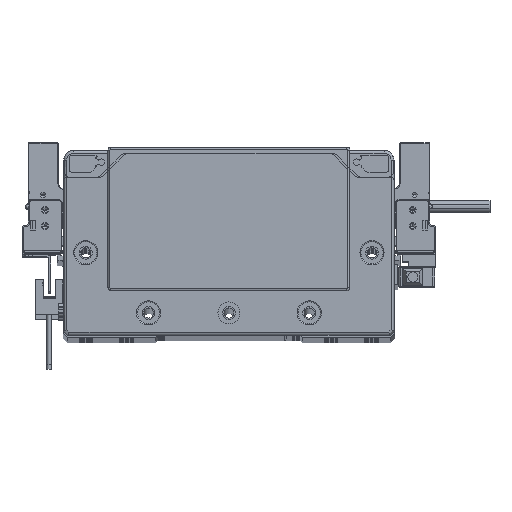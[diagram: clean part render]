
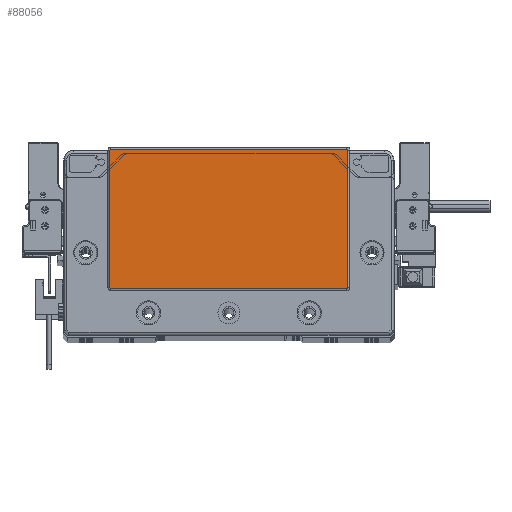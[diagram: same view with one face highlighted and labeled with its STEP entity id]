
A CAD part, top view. The second image highlights one B-rep face of the part: STEP entity #88056.
In plain terms, the highlighted planar face has unit normal (0, 0, 1) as drawn and (0, 0, -1) by its records, which use the part's own axes.
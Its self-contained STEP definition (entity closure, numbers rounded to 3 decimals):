
#1468 = VERTEX_POINT ( 'NONE', #18185 ) ;
#3751 = EDGE_CURVE ( 'NONE', #83486, #41745, #35683, .T. ) ;
#5866 = CARTESIAN_POINT ( 'NONE',  ( -58.75, 45.8, -2. ) ) ;
#6159 = CARTESIAN_POINT ( 'NONE',  ( -58.75, -23.3, -2. ) ) ;
#6895 = EDGE_LOOP ( 'NONE', ( #53944, #69088, #88418, #94316, #98993, #44537, #44601, #93188 ) ) ;
#13051 = CARTESIAN_POINT ( 'NONE',  ( 58.75, 45.3, -2. ) ) ;
#13952 = CARTESIAN_POINT ( 'NONE',  ( -59.25, 45.3, -2. ) ) ;
#15745 = CARTESIAN_POINT ( 'NONE',  ( 58.75, -23.3, -2. ) ) ;
#17788 = CIRCLE ( 'NONE', #50908, 0.5 ) ;
#18185 = CARTESIAN_POINT ( 'NONE',  ( -59.25, -23.3, -2. ) ) ;
#19595 = PLANE ( 'NONE',  #72758 ) ;
#20500 = CARTESIAN_POINT ( 'NONE',  ( 58.75, -23.8, -2. ) ) ;
#23698 = CIRCLE ( 'NONE', #50993, 0.5 ) ;
#29232 = CARTESIAN_POINT ( 'NONE',  ( -58.75, -23.8, -2. ) ) ;
#35683 = LINE ( 'NONE', #55762, #42789 ) ;
#41745 = VERTEX_POINT ( 'NONE', #29232 ) ;
#42273 = AXIS2_PLACEMENT_3D ( 'NONE', #45451, #74095, #65507 ) ;
#42789 = VECTOR ( 'NONE', #64891, 1000. ) ;
#44537 = ORIENTED_EDGE ( 'NONE', *, *, #66855, .T. ) ;
#44601 = ORIENTED_EDGE ( 'NONE', *, *, #58772, .T. ) ;
#45441 = CARTESIAN_POINT ( 'NONE',  ( 58.75, 45.8, -2. ) ) ;
#45451 = CARTESIAN_POINT ( 'NONE',  ( -58.75, 45.3, -2. ) ) ;
#50004 = DIRECTION ( 'NONE',  ( 0., 0., -1. ) ) ;
#50228 = DIRECTION ( 'NONE',  ( 0., 0., -1. ) ) ;
#50908 = AXIS2_PLACEMENT_3D ( 'NONE', #13051, #50228, #87462 ) ;
#50993 = AXIS2_PLACEMENT_3D ( 'NONE', #6159, #53670, #110449 ) ;
#51726 = CIRCLE ( 'NONE', #114147, 0.5 ) ;
#53670 = DIRECTION ( 'NONE',  ( 0., 0., -1. ) ) ;
#53944 = ORIENTED_EDGE ( 'NONE', *, *, #65791, .T. ) ;
#55762 = CARTESIAN_POINT ( 'NONE',  ( -58.75, -23.8, -2. ) ) ;
#56743 = CARTESIAN_POINT ( 'NONE',  ( 0., 0., -2. ) ) ;
#58772 = EDGE_CURVE ( 'NONE', #102109, #118419, #81425, .T. ) ;
#60868 = CARTESIAN_POINT ( 'NONE',  ( 59.25, 45.3, -2. ) ) ;
#60995 = CARTESIAN_POINT ( 'NONE',  ( 59.25, -23.3, -2. ) ) ;
#61479 = VECTOR ( 'NONE', #79315, 1000. ) ;
#62368 = CARTESIAN_POINT ( 'NONE',  ( 59.25, -23.3, -2. ) ) ;
#64891 = DIRECTION ( 'NONE',  ( -1., 0., 0. ) ) ;
#65507 = DIRECTION ( 'NONE',  ( -1., 0., 0. ) ) ;
#65791 = EDGE_CURVE ( 'NONE', #93580, #75268, #87302, .T. ) ;
#66152 = VERTEX_POINT ( 'NONE', #13952 ) ;
#66855 = EDGE_CURVE ( 'NONE', #66152, #102109, #92970, .T. ) ;
#69088 = ORIENTED_EDGE ( 'NONE', *, *, #93175, .T. ) ;
#70837 = EDGE_CURVE ( 'NONE', #1468, #66152, #114223, .T. ) ;
#72758 = AXIS2_PLACEMENT_3D ( 'NONE', #56743, #50004, #114749 ) ;
#74095 = DIRECTION ( 'NONE',  ( 0., 0., -1. ) ) ;
#74449 = FACE_OUTER_BOUND ( 'NONE', #6895, .T. ) ;
#75268 = VERTEX_POINT ( 'NONE', #62368 ) ;
#79315 = DIRECTION ( 'NONE',  ( 0., -1., 0. ) ) ;
#80342 = DIRECTION ( 'NONE',  ( 0., 0., -1. ) ) ;
#81425 = LINE ( 'NONE', #45441, #84846 ) ;
#82813 = VECTOR ( 'NONE', #86110, 1000. ) ;
#83223 = CARTESIAN_POINT ( 'NONE',  ( 58.75, 45.8, -2. ) ) ;
#83486 = VERTEX_POINT ( 'NONE', #20500 ) ;
#84846 = VECTOR ( 'NONE', #100979, 1000. ) ;
#86110 = DIRECTION ( 'NONE',  ( 0., 1., 0. ) ) ;
#87302 = LINE ( 'NONE', #60995, #61479 ) ;
#87328 = CARTESIAN_POINT ( 'NONE',  ( -59.25, 45.3, -2. ) ) ;
#87462 = DIRECTION ( 'NONE',  ( -1., 0., 0. ) ) ;
#88056 = ADVANCED_FACE ( 'NONE', ( #74449 ), #19595, .T. ) ;
#88418 = ORIENTED_EDGE ( 'NONE', *, *, #3751, .T. ) ;
#92970 = CIRCLE ( 'NONE', #42273, 0.5 ) ;
#93175 = EDGE_CURVE ( 'NONE', #75268, #83486, #51726, .T. ) ;
#93188 = ORIENTED_EDGE ( 'NONE', *, *, #101513, .T. ) ;
#93580 = VERTEX_POINT ( 'NONE', #60868 ) ;
#94316 = ORIENTED_EDGE ( 'NONE', *, *, #101941, .T. ) ;
#98993 = ORIENTED_EDGE ( 'NONE', *, *, #70837, .T. ) ;
#100979 = DIRECTION ( 'NONE',  ( 1., 0., 0. ) ) ;
#101513 = EDGE_CURVE ( 'NONE', #118419, #93580, #17788, .T. ) ;
#101941 = EDGE_CURVE ( 'NONE', #41745, #1468, #23698, .T. ) ;
#102109 = VERTEX_POINT ( 'NONE', #5866 ) ;
#110449 = DIRECTION ( 'NONE',  ( -1., 0., 0. ) ) ;
#114147 = AXIS2_PLACEMENT_3D ( 'NONE', #15745, #80342, #117642 ) ;
#114223 = LINE ( 'NONE', #87328, #82813 ) ;
#114749 = DIRECTION ( 'NONE',  ( -1., 0., 0. ) ) ;
#117642 = DIRECTION ( 'NONE',  ( -1., 0., 0. ) ) ;
#118419 = VERTEX_POINT ( 'NONE', #83223 ) ;
